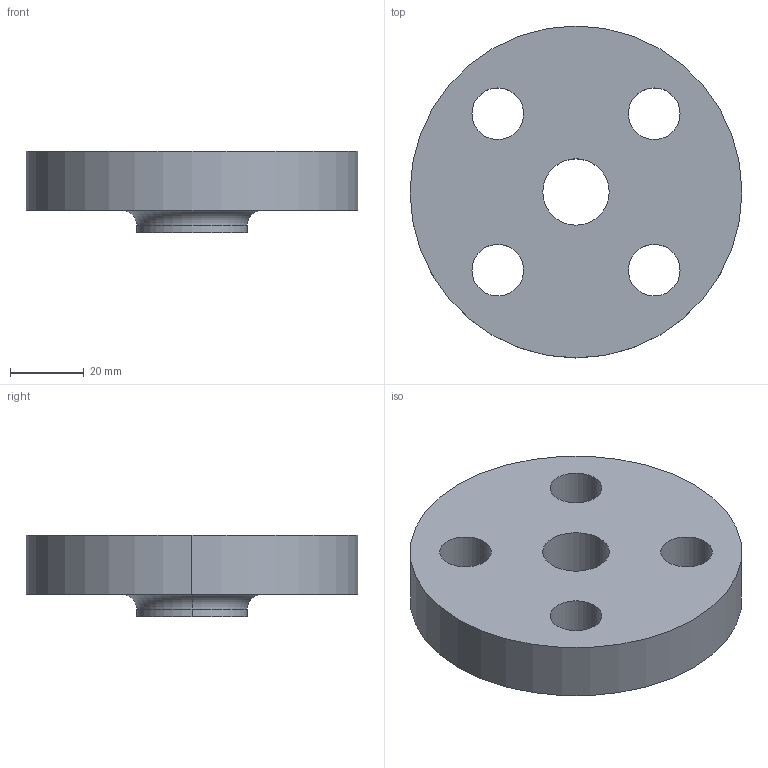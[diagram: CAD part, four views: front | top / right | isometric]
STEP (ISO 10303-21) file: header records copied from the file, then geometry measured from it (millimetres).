
FILE_DESCRIPTION (( 'STEP AP214' ), '1' );
FILE_NAME ('PN40 DN10 Type 12 - Type A Face.STEP', '2018-12-29T04:03:04', ( '' ), ( '' ), 'SwSTEP 2.0', 'SolidWorks 2019', '' );
FILE_SCHEMA (( 'AUTOMOTIVE_DESIGN' ));
Length unit declared in the file: millimetre
Products named in the file (1): PN40 DN10 Type 12 - Type A Face
Bounding box: 90 x 90 x 22 mm (x, y, z)
Volume: 90921.3 mm3; surface area: 19976.6 mm2
Topology: 1 solids, 1 shells, 19 faces, 46 edges, 30 vertices
Faces by surface type: cylinder 14, plane 3, torus 2
Entity records: 630 total; most frequent: DIRECTION 118, CARTESIAN_POINT 96, ORIENTED_EDGE 92, AXIS2_PLACEMENT_3D 52, EDGE_CURVE 46, CIRCLE 32, VERTEX_POINT 30, EDGE_LOOP 30
